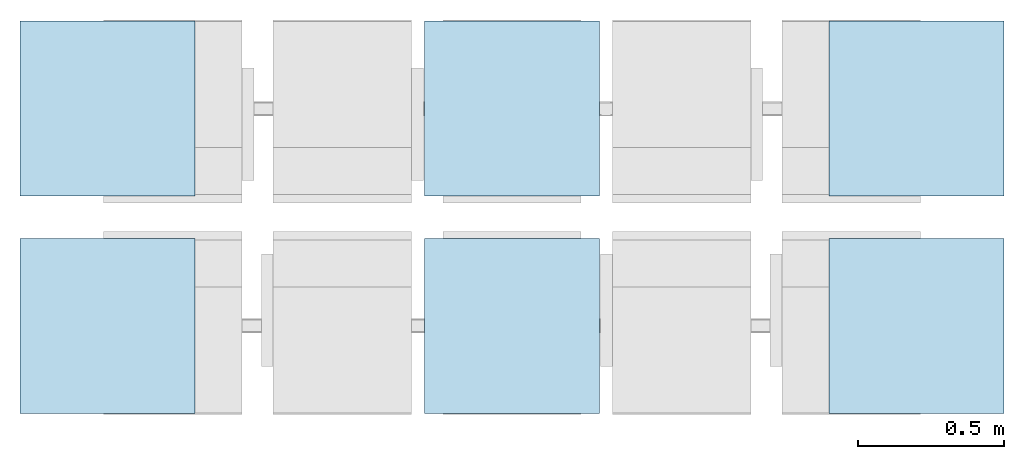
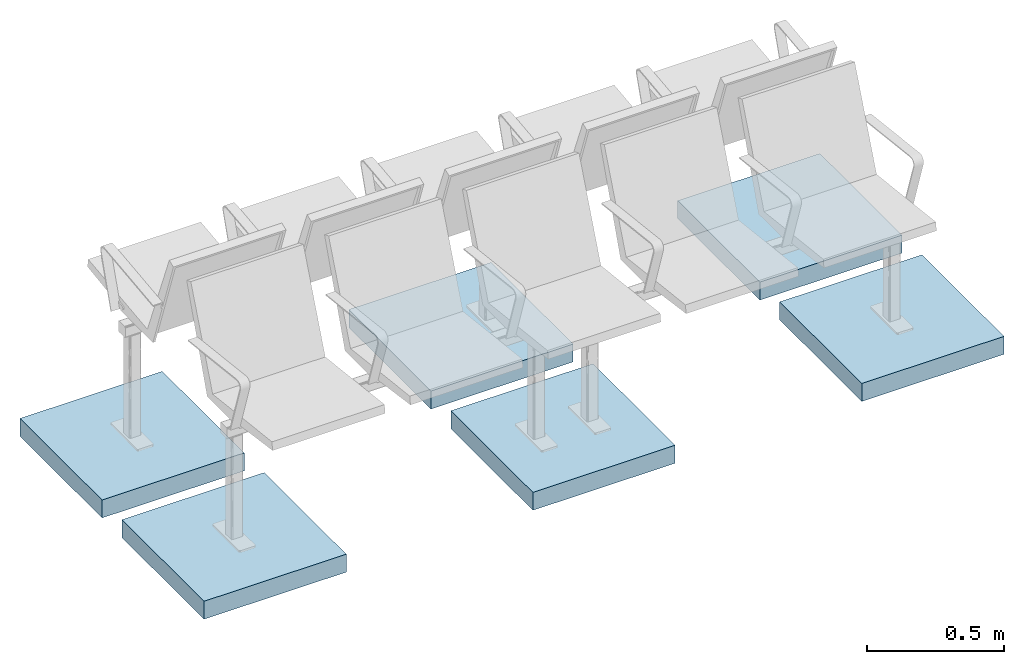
# One storey, incomplete: 6 slabs.
"""IFC4 building model written with IfcOpenShell, lengths in metres."""

import ifcopenshell
import ifcopenshell.guid

model = None  # the IFC model being written
_history = None  # IfcOwnerHistory: only IFC2X3 demands one
_inside = {}  # id of a spatial element -> (the spatial element, [elements in it])
_under = {}  # id of a project, library or spatial element -> (it, [spatial elements below it])
_declared = {}  # id of a project -> (the project, [libraries it declares])
_typed = {}  # id of a type object -> (the type object, [elements of that type])
_made_of = {}  # id of a material, layer set ... -> (it, [elements and type objects made of it])


def new_model(schema):
    """Start an empty IFC model of exactly this schema.

    Asked for "IFC4X3", IfcOpenShell would pick the latest addendum, in which some entities
    have other attributes; the version numbers below select the first issue.
    IFC2X3 requires an IfcOwnerHistory on every rooted entity: one is made here for all.
    """
    global model, _history
    if schema == "IFC4X3":
        model = ifcopenshell.file(schema_version=(4, 3, 0, 0))
    else:
        model = ifcopenshell.file(schema=schema)
    _inside.clear()
    _under.clear()
    _declared.clear()
    _typed.clear()
    _made_of.clear()
    _history = None
    if model.schema == "IFC2X3":
        org = make("IfcOrganization", Name="unknown")
        user = make(
            "IfcPersonAndOrganization",
            ThePerson=make("IfcPerson", FamilyName="unknown"),
            TheOrganization=org,
        )
        app = make(
            "IfcApplication",
            ApplicationDeveloper=org,
            Version="unknown",
            ApplicationFullName="unknown",
            ApplicationIdentifier="unknown",
        )
        _history = make(
            "IfcOwnerHistory",
            OwningUser=user,
            OwningApplication=app,
            ChangeAction="ADDED",
            CreationDate=0,
        )
    return model


def make(cls, **values):
    """One entity of the class cls with the attributes given. An attribute that is None is left unset."""
    return model.create_entity(
        cls, **{name: value for name, value in values.items() if value is not None}
    )


def entity(cls, *values):
    """Any entity or typed value of the class cls, its attributes in the order of the schema. None: left unset."""
    e = model.create_entity(cls)
    for i, value in enumerate(values):
        if value is not None:
            e[i] = value
    return e


def rooted(cls, **values):
    """An entity with a GlobalId (a new one), such as an element, a storey or a relation."""
    return make(cls, GlobalId=ifcopenshell.guid.new(), OwnerHistory=_history, **values)


def si_unit(unit_type, name, prefix=None):
    """IfcSIUnit, for example si_unit("LENGTHUNIT", "METRE", prefix="MILLI")."""
    return make("IfcSIUnit", UnitType=unit_type, Prefix=prefix, Name=name)


def converted_unit(unit_type, name, factor, base, dimensions=None, offset=None):
    """IfcConversionBasedUnit, such as the inch: factor (a typed value) times the base unit."""
    return make(
        "IfcConversionBasedUnit"
        if offset is None
        else "IfcConversionBasedUnitWithOffset",
        ConversionOffset=offset,
        Dimensions=None
        if dimensions is None
        else entity("IfcDimensionalExponents", *dimensions),
        UnitType=unit_type,
        Name=name,
        ConversionFactor=make(
            "IfcMeasureWithUnit", ValueComponent=factor, UnitComponent=base
        ),
    )


def assignment(units):
    """IfcUnitAssignment: the units of a project."""
    return None if units is None else make("IfcUnitAssignment", Units=units)


def point(xyz):
    """IfcCartesianPoint."""
    return None if xyz is None else make("IfcCartesianPoint", Coordinates=xyz)


def direction(xyz):
    """IfcDirection."""
    return None if xyz is None else make("IfcDirection", DirectionRatios=xyz)


def frame(location, z_axis=None, x_axis=None):
    """IfcAxis2Placement3D, a coordinate frame: its origin and axes. An axis left out is left unset."""
    return make(
        "IfcAxis2Placement3D",
        Location=point(location),
        Axis=direction(z_axis),
        RefDirection=direction(x_axis),
    )


def frame_2d(location, x_axis=None):
    """IfcAxis2Placement2D, a coordinate frame in the plane: its origin and x axis."""
    return make(
        "IfcAxis2Placement2D", Location=point(location), RefDirection=direction(x_axis)
    )


def origin():
    """The frame at (0, 0, 0) with its axes left unset."""
    return frame((0.0, 0.0, 0.0))


def origin_2d_with_axis():
    """The frame at (0, 0) in the plane with the x axis (1, 0) written out."""
    return frame_2d((0.0, 0.0), x_axis=(1.0, 0.0))


def place(relative_to, where):
    """IfcLocalPlacement: puts the frame where relative to a parent placement (None: the world)."""
    return make(
        "IfcLocalPlacement", PlacementRelTo=relative_to, RelativePlacement=where
    )


def context(
    kind, dimensions, precision=None, world=None, true_north=None, identifier=None
):
    """IfcGeometricRepresentationContext, for example the 3D "Model" context."""
    return make(
        "IfcGeometricRepresentationContext",
        ContextIdentifier=identifier,
        ContextType=kind,
        CoordinateSpaceDimension=dimensions,
        Precision=precision,
        WorldCoordinateSystem=world,
        TrueNorth=true_north,
    )


def subcontext(parent, identifier, kind, view, scale=None):
    """IfcGeometricRepresentationSubContext, for example "Body" below "Model"."""
    return make(
        "IfcGeometricRepresentationSubContext",
        ContextIdentifier=identifier,
        ContextType=kind,
        ParentContext=parent,
        TargetScale=scale,
        TargetView=view,
    )


def project(units=None, contexts=None):
    """IfcProject with its units and contexts."""
    return rooted(
        "IfcProject",
        Name="project",
        RepresentationContexts=contexts,
        UnitsInContext=assignment(units),
    )


def spatial(cls, under=None, at=None, **own):
    """A site, building, storey or space (cls), placed at a placement, below another one or the project."""
    s = rooted(cls, ObjectPlacement=at, **own)
    if under is not None:
        _under.setdefault(under.id(), (under, []))[1].append(s)
    return s


def profile(cls, at=None, kind="AREA", **sizes):
    """A parametric profile (cls). Its sizes go by their IFC names, for example OverallWidth=200.0."""
    return make(cls, ProfileType=kind, Position=at, **sizes)


def rectangle(**sizes):
    """IfcRectangleProfileDef."""
    return profile("IfcRectangleProfileDef", **sizes)


def extrude(swept, where, along, depth):
    """IfcExtrudedAreaSolid: the profile swept, set in the frame where, extruded along a direction by depth."""
    return make(
        "IfcExtrudedAreaSolid",
        SweptArea=swept,
        Position=where,
        ExtrudedDirection=direction(along),
        Depth=depth,
    )


def shape(context_of_items, identifier, shape_type, items):
    """IfcShapeRepresentation: the items that make up one representation, for example the "Body"."""
    return make(
        "IfcShapeRepresentation",
        ContextOfItems=context_of_items,
        RepresentationIdentifier=identifier,
        RepresentationType=shape_type,
        Items=items,
    )


def material(Name=None, Category=None):
    """IfcMaterial."""
    return make("IfcMaterial", Name=Name, Category=Category)


def made_of(thing, what):
    """Note that an element or type object is made of a material, layer set ...; save() writes the relation."""
    if what is not None:
        _made_of.setdefault(what.id(), (what, []))[1].append(thing)
    return thing


def type_object(cls, material=None, **own):
    """A type object (cls), such as IfcWallType, which elements share."""
    return made_of(rooted(cls, **own), material)


def element(
    cls,
    number,
    at=None,
    inside=None,
    cuts=None,
    type_object=None,
    material=None,
    context=None,
    identifier="Body",
    shape_type=None,
    held_by="IfcProductDefinitionShape",
    body=None,
    shapes=None,
    **own,
):
    """One element of the class cls, such as IfcWall. Its Tag is "e" and its number.

    at: its placement. inside: the storey or other place that contains it. cuts: it is an
    opening in that element (IfcRelVoidsElement). A single representation is given by context,
    identifier, shape_type and body (its items); several are given by shapes. held_by: the class
    of the entity that holds the representations. save() writes the other relations.
    """
    e = rooted(cls, Tag="e%d" % number, ObjectPlacement=at, **own)
    if body is not None:
        shapes = [shape(context, identifier, shape_type, body)]
    if shapes is not None:
        e.Representation = make(held_by, Representations=shapes)
    if inside is not None:
        _inside.setdefault(inside.id(), (inside, []))[1].append(e)
    if cuts is not None:
        rooted(
            "IfcRelVoidsElement", RelatingBuildingElement=cuts, RelatedOpeningElement=e
        )
    if type_object is not None:
        _typed.setdefault(type_object.id(), (type_object, []))[1].append(e)
    return made_of(e, material)


def aggregate(whole, parts):
    """IfcRelAggregates: a whole, such as a stair, and the parts it consists of."""
    return rooted("IfcRelAggregates", RelatingObject=whole, RelatedObjects=parts)


def save(model, path):
    """Write the relations noted so far, then the file.

    IfcRelAggregates (storeys below a building ...), IfcRelContainedInSpatialStructure (elements
    in a storey), IfcRelDefinesByType, IfcRelAssociatesMaterial and IfcRelDeclares: one each for
    every whole, place, type object, material and project.
    """
    for whole, parts in _under.values():
        aggregate(whole, parts)
    for where, things in _inside.values():
        rooted(
            "IfcRelContainedInSpatialStructure",
            RelatedElements=things,
            RelatingStructure=where,
        )
    for kind, things in _typed.values():
        rooted("IfcRelDefinesByType", RelatedObjects=things, RelatingType=kind)
    for what, things in _made_of.values():
        rooted("IfcRelAssociatesMaterial", RelatedObjects=things, RelatingMaterial=what)
    for by, libraries in _declared.values():
        rooted("IfcRelDeclares", RelatingContext=by, RelatedDefinitions=libraries)
    model.write(path)


model = new_model("IFC4")

# Units and contexts
model_context = context("Model", 3, precision=1e-05, world=origin(), true_north=direction((6.123031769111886e-17, 1.0)))
body_context = subcontext(model_context, "Body", "Model", "MODEL_VIEW")
ifc_project = project(units=[si_unit("LENGTHUNIT", "METRE"), converted_unit("PLANEANGLEUNIT", "DEGREE", entity("IfcPlaneAngleMeasure", 0.017453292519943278), si_unit("PLANEANGLEUNIT", "RADIAN"), dimensions=[0, 0, 0, 0, 0, 0, 0]), si_unit("AREAUNIT", "SQUARE_METRE")], contexts=[model_context])

# Site, building, storey
site_placement = place(None, origin())
site = spatial("IfcSite", under=ifc_project, at=site_placement, Name="Default", CompositionType="ELEMENT")
building_placement = place(site_placement, origin())
building = spatial("IfcBuilding", under=site, at=building_placement, CompositionType="ELEMENT")
storey_placement = place(building_placement, origin())
storey = spatial("IfcBuildingStorey", under=building, at=storey_placement, Name="DB_Bezugshoehe_max_Bahnsteigkante", CompositionType="ELEMENT", Elevation=0.0)

# Slabs
ifc_material = material(Name="DB_Fertigbeton", Category="DB_Beton")
slab_type = type_object("IfcSlabType", Name="DB_Sitzbank_Fundament:DB_Sitzbank_Fundament", PredefinedType="BASESLAB", material=ifc_material)
slab_1_placement = place(storey_placement, origin())
element("IfcSlab", 1, at=slab_1_placement, inside=storey, type_object=slab_type, Name="DB_Sitzbank_Fundament:DB_Sitzbank_Fundament", ObjectType="DB_Sitzbank_Fundament:DB_Sitzbank_Fundament", PredefinedType="BASESLAB", context=body_context, shape_type="SweptSolid", body=[
    extrude(rectangle(XDim=0.5999999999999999, YDim=0.6000000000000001, at=origin_2d_with_axis()), frame((-1.3875000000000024, -0.3724999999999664, -0.25), z_axis=(0.0, 0.0, 1.0), x_axis=(0.0, 1.0, 0.0)), (0.0, 0.0, 1.0), 0.08000000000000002),
])
slab_2_placement = place(storey_placement, origin())
element("IfcSlab", 2, at=slab_2_placement, inside=storey, type_object=slab_type, Name="DB_Sitzbank_Fundament:DB_Sitzbank_Fundament", ObjectType="DB_Sitzbank_Fundament:DB_Sitzbank_Fundament", PredefinedType="BASESLAB", context=body_context, shape_type="SweptSolid", body=[
    extrude(rectangle(XDim=0.5999999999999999, YDim=0.5999999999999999, at=origin_2d_with_axis()), frame((0.0, -0.3724999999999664, -0.25), z_axis=(0.0, 0.0, 1.0), x_axis=(0.0, 1.0, 0.0)), (0.0, 0.0, 1.0), 0.08000000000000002),
])
slab_3_placement = place(storey_placement, origin())
element("IfcSlab", 3, at=slab_3_placement, inside=storey, type_object=slab_type, Name="DB_Sitzbank_Fundament:DB_Sitzbank_Fundament", ObjectType="DB_Sitzbank_Fundament:DB_Sitzbank_Fundament", PredefinedType="BASESLAB", context=body_context, shape_type="SweptSolid", body=[
    extrude(rectangle(XDim=0.5999999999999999, YDim=0.6000000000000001, at=frame_2d((8.326672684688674e-17, 0.0), x_axis=(1.0, 0.0))), frame((-1.3875000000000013, 0.37250000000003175, -0.25), z_axis=(0.0, 0.0, 1.0), x_axis=(0.0, 1.0, 0.0)), (0.0, 0.0, 1.0), 0.08000000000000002),
])
slab_4_placement = place(storey_placement, origin())
element("IfcSlab", 4, at=slab_4_placement, inside=storey, type_object=slab_type, Name="DB_Sitzbank_Fundament:DB_Sitzbank_Fundament", ObjectType="DB_Sitzbank_Fundament:DB_Sitzbank_Fundament", PredefinedType="BASESLAB", context=body_context, shape_type="SweptSolid", body=[
    extrude(rectangle(XDim=0.5999999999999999, YDim=0.5999999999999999, at=frame_2d((0.0, -8.326672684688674e-17), x_axis=(1.0, 0.0))), frame((1.3875000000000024, -0.3724999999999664, -0.25), z_axis=(0.0, 0.0, 1.0), x_axis=(0.0, 1.0, 0.0)), (0.0, 0.0, 1.0), 0.08000000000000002),
])
slab_5_placement = place(storey_placement, origin())
element("IfcSlab", 5, at=slab_5_placement, inside=storey, type_object=slab_type, Name="DB_Sitzbank_Fundament:DB_Sitzbank_Fundament", ObjectType="DB_Sitzbank_Fundament:DB_Sitzbank_Fundament", PredefinedType="BASESLAB", context=body_context, shape_type="SweptSolid", body=[
    extrude(rectangle(XDim=0.5999999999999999, YDim=0.5999999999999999, at=frame_2d((8.326672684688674e-17, 0.0), x_axis=(1.0, 0.0))), frame((0.0, 0.37250000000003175, -0.25), z_axis=(0.0, 0.0, 1.0), x_axis=(0.0, 1.0, 0.0)), (0.0, 0.0, 1.0), 0.08000000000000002),
])
slab_6_placement = place(storey_placement, origin())
element("IfcSlab", 6, at=slab_6_placement, inside=storey, type_object=slab_type, Name="DB_Sitzbank_Fundament:DB_Sitzbank_Fundament", ObjectType="DB_Sitzbank_Fundament:DB_Sitzbank_Fundament", PredefinedType="BASESLAB", context=body_context, shape_type="SweptSolid", body=[
    extrude(rectangle(XDim=0.5999999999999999, YDim=0.5999999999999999, at=frame_2d((8.326672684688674e-17, -8.326672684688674e-17), x_axis=(1.0, 0.0))), frame((1.3875000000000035, 0.37250000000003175, -0.25000000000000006), z_axis=(0.0, 0.0, 1.0), x_axis=(0.0, 1.0, 0.0)), (0.0, 0.0, 1.0), 0.08000000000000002),
])

save(model, "model.ifc")
